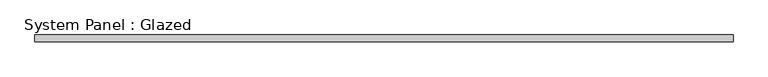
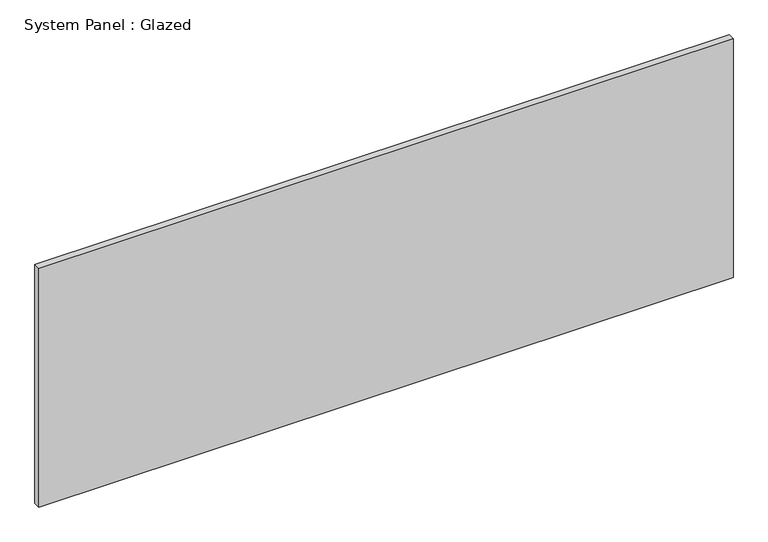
"""IFC4 building model written with IfcOpenShell, lengths in millimetres: plate geometry, System Panel : Glazed."""

from ifc_helpers import new_model, si_unit, origin, origin_with_axes, place, context, project, spatial, polyline, outline, extrude, source, transform, mapped, element, save


def system_panel_glazed_010530aa(model_context):
    return source(origin(), model_context, "Body", "SweptSolid", [
        extrude(outline(polyline([(1237.5, -49.5), (-1237.5, -49.5), (-1237.5, -24.5), (1237.5, -24.5), (1237.5, -49.5)])), origin_with_axes(), (0.0, 0.0, 1.0), 900.0),
    ])


if __name__ == "__main__":
    model = new_model("IFC4")
    model_context = context("Model", 3, world=origin())
    ifc_project = project(units=[si_unit("LENGTHUNIT", "METRE", prefix="MILLI")], contexts=[model_context])
    site = spatial("IfcSite", under=ifc_project)
    building = spatial("IfcBuilding", under=site)
    placement = place(None, origin())
    system_panel_glazed_shape = system_panel_glazed_010530aa(model_context)
    element("IfcPlate", 1, ObjectType="System Panel : Glazed", at=placement, inside=building, context=model_context, shape_type="MappedRepresentation", body=[
        mapped(system_panel_glazed_shape, transform((0.0, 0.0, 0.0), x_axis=(1.0, 0.0, 0.0), y_axis=(0.0, 1.0, 0.0), z_axis=(0.0, 0.0, 1.0))),
    ])
    save(model, "model.ifc")
